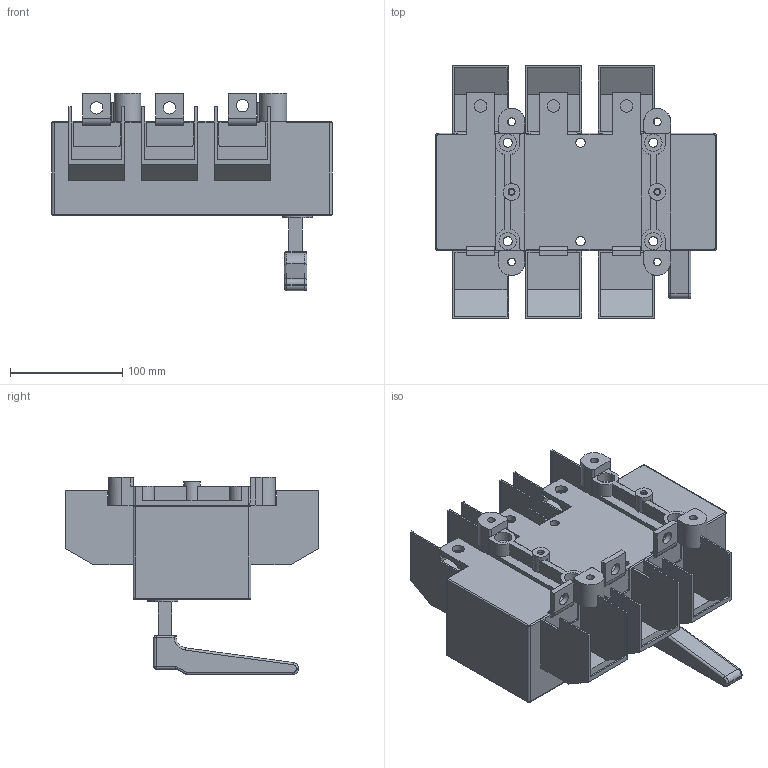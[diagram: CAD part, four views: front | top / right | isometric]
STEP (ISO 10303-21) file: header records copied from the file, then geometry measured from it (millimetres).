
FILE_DESCRIPTION(/* description */ (''),/* implementation_level */ '2;1');
FILE_NAME(/* name */ 'RA630 P3 A-R z oslona zaciskow.stp',/* time_stamp */ '2021-08-19T08:02:51+02:00',/* author */ (''),/* organization */ (''),/* preprocessor_version */ 'ST-DEVELOPER v18.1',/* originating_system */ 'SIEMENS PLM Software NX 1965',/* authorisation */ '');
FILE_SCHEMA (('AUTOMOTIVE_DESIGN { 1 0 10303 214 3 1 1 1 }'));
Length unit declared in the file: millimetre
Products named in the file (1): RA630 P3 A-R z oslona zaciskow
Bounding box: 250 x 225 x 176 mm (x, y, z)
Volume: 2439035.4 mm3; surface area: 295390 mm2
Topology: 1 solids, 1 shells, 417 faces, 1156 edges, 737 vertices
Faces by surface type: plane 268, cylinder 127, bspline 8, torus 8, sphere 6
Full cylindrical faces by diameter (mm): 4.8 x2, 6.2 x2, 7 x4, 8.2 x6, 11 x6, 14 x4, 15 x2, 15.5 x4
Entity records: 13186 total; most frequent: CARTESIAN_POINT 2421, ORIENTED_EDGE 2224, DIRECTION 2222, EDGE_CURVE 1112, LINE 814, VECTOR 814, VERTEX_POINT 726, AXIS2_PLACEMENT_3D 704
